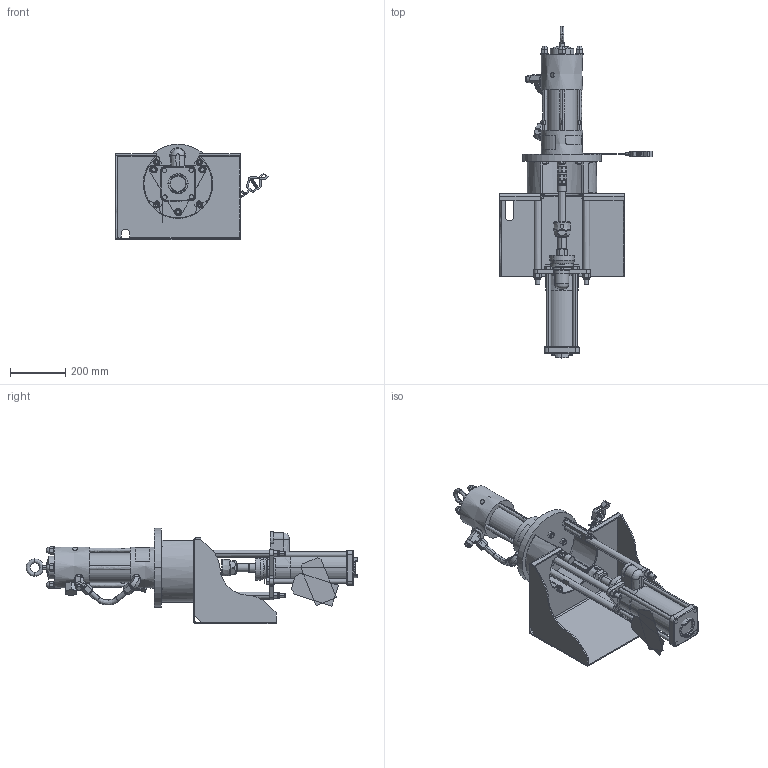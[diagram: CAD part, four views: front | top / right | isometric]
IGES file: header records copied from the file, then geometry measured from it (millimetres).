
Start section:  PTC IGES file: 24w891-en-h.igs
Global section: file name: 24w891-en-h.igs; native system: Creo Parametric by PTC Inc.; preprocessor: 2021072; author: qufmd1; organization: Unknown; date: 20220621.142057; units: inch
Bounding box: 552.08 x 1202.41 x 346.07 mm (x, y, z)
Surface area: 1947612.2 mm2 (no closed solid volume)
Topology: 0 solids, 0 shells, 1087 faces, 5068 edges, 5060 vertices
Faces by surface type: revolution 601, bspline 486
